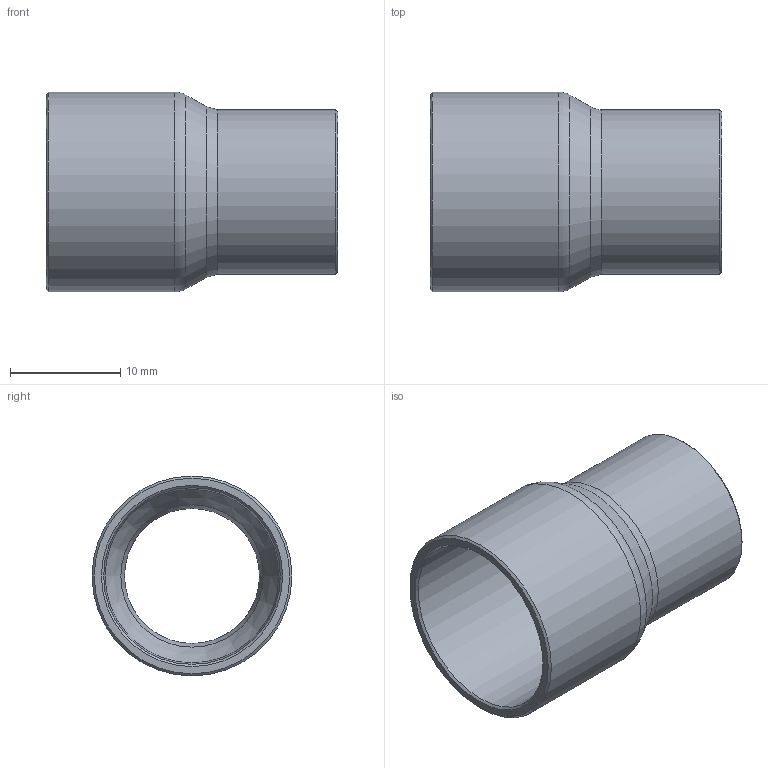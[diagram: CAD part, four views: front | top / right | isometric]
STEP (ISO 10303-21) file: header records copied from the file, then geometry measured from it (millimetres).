
FILE_DESCRIPTION((''),'2;1');
FILE_NAME('G:\SANHA-Ternat\Technik\Management\Bouwmaten + markeringen\z-maattekeningen 3D\29000s\292405812_3d.stp','2017-08-04T10:03:10',('vdvijverd'),(''),'Autodesk Inventor 2009','Autodesk Inventor 2009','');
FILE_SCHEMA(('AUTOMOTIVE_DESIGN { 1 0 10303 214 1 1 1 1 }'));
Length unit declared in the file: millimetre
Products named in the file (1): 292405812_3d
Bounding box: 26.4 x 18.09 x 18.09 mm (x, y, z)
Volume: 1394.9 mm3; surface area: 2682.9 mm2
Topology: 1 solids, 1 shells, 17 faces, 32 edges, 17 vertices
Faces by surface type: cone 6, cylinder 4, bspline 3, plane 2, torus 2
Full cylindrical faces by diameter (mm): 12.82 x1, 14.9 x1, 15.995 x1, 18.095 x1
Entity records: 494 total; most frequent: CARTESIAN_POINT 184, DIRECTION 64, ORIENTED_EDGE 34, EDGE_LOOP 34, AXIS2_PLACEMENT_3D 32, VERTEX_POINT 17, CIRCLE 17, EDGE_CURVE 17
